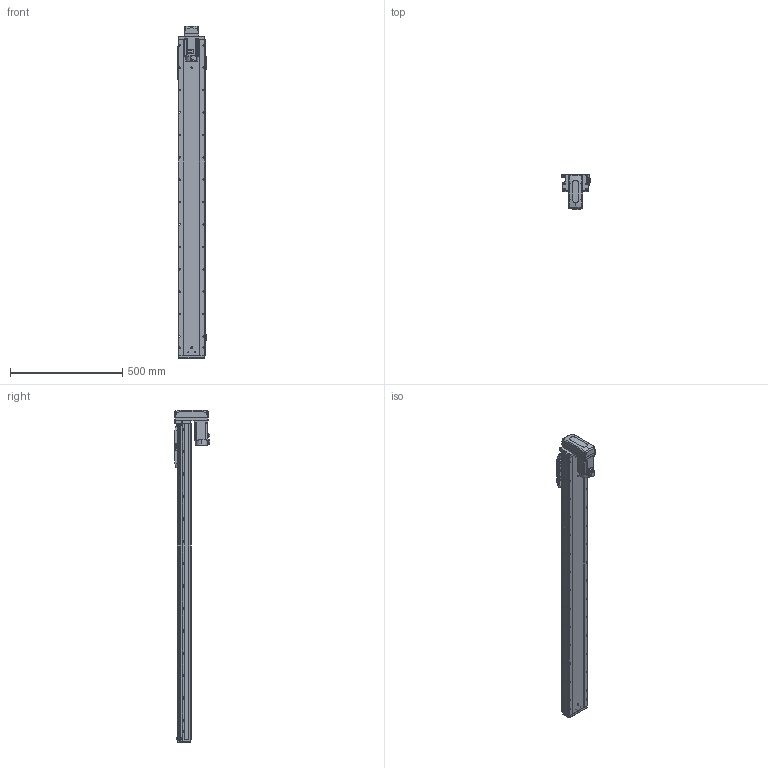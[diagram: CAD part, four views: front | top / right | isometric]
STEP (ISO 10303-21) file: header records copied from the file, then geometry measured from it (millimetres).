
FILE_DESCRIPTION (( 'STEP AP203' ), '1' );
FILE_NAME ('GTH12-1200-BM-M40-C4.STEP', '2023-03-11T02:26:59', ( '微软用户' ), ( '微软中国' ), 'SwSTEP 2.0', 'SolidWorks 2020', '' );
FILE_SCHEMA (( 'CONFIG_CONTROL_DESIGN' ));
Length unit declared in the file: millimetre
Products named in the file (18): GBT 70.1-M3℅6; GBT96.1-2002 3×0.8; GBT 70.1-M5×16; BTH-M3X5X6; GTH120-001_1200; GBT 70.3-M3℅8; hg-kn43j_-s100_; GTH120-003; GTH80-022; CTHA86-033_M40B; GTH120-006; GTH80-028; GTH120-027-1_GTH120-027-2; GTH120-004; GTH50-023; GTH12-1200-BM-M40-C4; GTH120-013; GTH50-024
Assembly tree (59 placements, depth 2):
  GTH12-1200-BM-M40-C4
    GTH120-001_1200
    GTH120-003
    GTH120-006
    GTH120-004
    GTH120-013
    GBT 70.1-M3℅6  x14
    GBT 70.1-M5×16  x10
    GBT 70.3-M3℅8  x4
    GTH80-022
    GTH80-028  x2
    GTH50-023  x3
    GTH50-024  x3
    GBT96.1-2002 3×0.8  x6
    BTH-M3X5X6  x8
    hg-kn43j_-s100_
    CTHA86-033_M40B
    GTH120-027-1_GTH120-027-2
Bounding box: 125.7 x 159.8 x 1482 mm (x, y, z)
Volume: 10445691.3 mm3; surface area: 863850 mm2
Topology: 61 solids, 61 shells, 2589 faces, 6082 edges, 3735 vertices
Faces by surface type: plane 1310, cylinder 775, cone 316, torus 174, sphere 8, bspline 6
Entity records: 50160 total; most frequent: CARTESIAN_POINT 8536, DIRECTION 8358, ORIENTED_EDGE 7774, EDGE_CURVE 3887, AXIS2_PLACEMENT_3D 2922, LINE 2514, VECTOR 2514, VERTEX_POINT 2456
